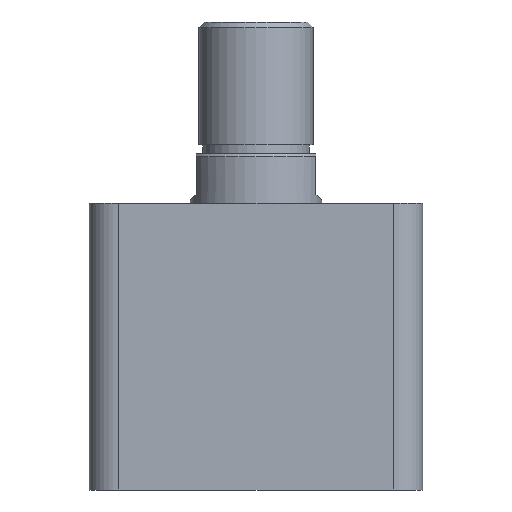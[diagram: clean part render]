
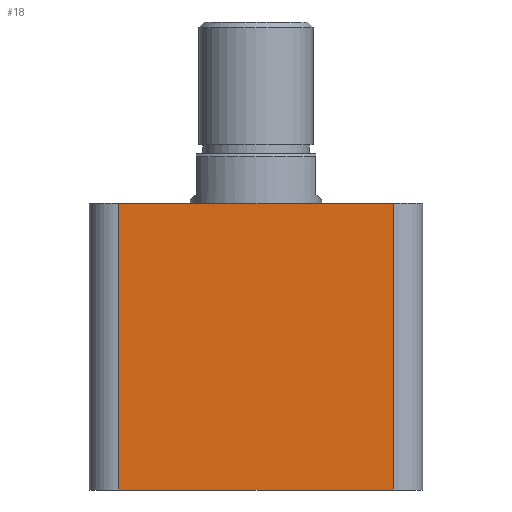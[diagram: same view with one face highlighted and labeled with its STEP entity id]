
A CAD part, front view. The second image highlights one B-rep face of the part: STEP entity #18.
In plain terms, the highlighted planar face has unit normal (0, -1, 0).
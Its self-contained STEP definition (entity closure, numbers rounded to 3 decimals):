
#18 = ADVANCED_FACE ( 'NONE', ( #1565 ), #473, .F. ) ;
#458 = DIRECTION ( 'NONE',  ( 0., 0., 1. ) ) ;
#467 = DIRECTION ( 'NONE',  ( 0., 1., 0. ) ) ;
#473 = PLANE ( 'NONE',  #1750 ) ;
#493 = CARTESIAN_POINT ( 'NONE',  ( -57., -57., 98. ) ) ;
#918 = ORIENTED_EDGE ( 'NONE', *, *, #1671, .T. ) ;
#919 = ORIENTED_EDGE ( 'NONE', *, *, #1672, .T. ) ;
#920 = ORIENTED_EDGE ( 'NONE', *, *, #1673, .F. ) ;
#922 = ORIENTED_EDGE ( 'NONE', *, *, #1674, .T. ) ;
#993 = EDGE_LOOP ( 'NONE', ( #918, #919, #920, #922 ) ) ;
#1122 = CARTESIAN_POINT ( 'NONE',  ( -47., -57., 98. ) ) ;
#1134 = CARTESIAN_POINT ( 'NONE',  ( 47., -57., 98. ) ) ;
#1135 = CARTESIAN_POINT ( 'NONE',  ( 47., -57., 0. ) ) ;
#1143 = CARTESIAN_POINT ( 'NONE',  ( -47., -57., 0. ) ) ;
#1186 = CARTESIAN_POINT ( 'NONE',  ( 47., -57., 98. ) ) ;
#1196 = CARTESIAN_POINT ( 'NONE',  ( -57., -57., 0. ) ) ;
#1197 = DIRECTION ( 'NONE',  ( 1., 0., 0. ) ) ;
#1198 = DIRECTION ( 'NONE',  ( 0., 0., 1. ) ) ;
#1199 = CARTESIAN_POINT ( 'NONE',  ( -57., -57., 98. ) ) ;
#1200 = DIRECTION ( 'NONE',  ( 1., 0., 0. ) ) ;
#1201 = CARTESIAN_POINT ( 'NONE',  ( -47., -57., 98. ) ) ;
#1202 = DIRECTION ( 'NONE',  ( 0., 0., -1. ) ) ;
#1565 = FACE_OUTER_BOUND ( 'NONE', #993, .T. ) ;
#1610 = VERTEX_POINT ( 'NONE', #1134 ) ;
#1611 = VERTEX_POINT ( 'NONE', #1122 ) ;
#1612 = VERTEX_POINT ( 'NONE', #1135 ) ;
#1621 = VERTEX_POINT ( 'NONE', #1143 ) ;
#1671 = EDGE_CURVE ( 'NONE', #1621, #1612, #2490, .T. ) ;
#1672 = EDGE_CURVE ( 'NONE', #1612, #1610, #2484, .T. ) ;
#1673 = EDGE_CURVE ( 'NONE', #1611, #1610, #2494, .T. ) ;
#1674 = EDGE_CURVE ( 'NONE', #1611, #1621, #2496, .T. ) ;
#1750 = AXIS2_PLACEMENT_3D ( 'NONE', #493, #467, #458 ) ;
#2484 = LINE ( 'NONE', #1186, #2495 ) ;
#2490 = LINE ( 'NONE', #1196, #2493 ) ;
#2493 = VECTOR ( 'NONE', #1197, 1000. ) ;
#2494 = LINE ( 'NONE', #1199, #2497 ) ;
#2495 = VECTOR ( 'NONE', #1198, 1000. ) ;
#2496 = LINE ( 'NONE', #1201, #2499 ) ;
#2497 = VECTOR ( 'NONE', #1200, 1000. ) ;
#2499 = VECTOR ( 'NONE', #1202, 1000. ) ;
